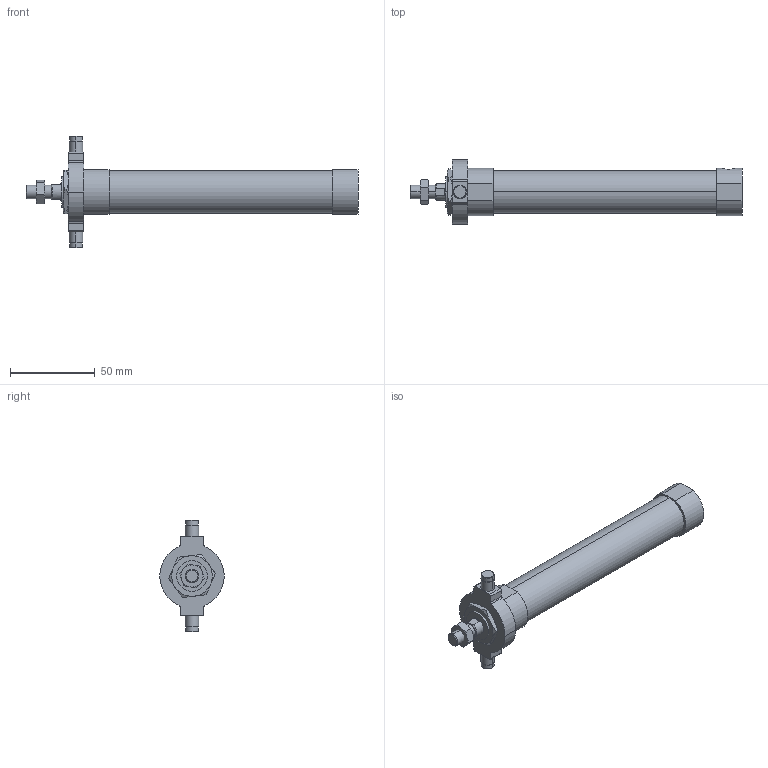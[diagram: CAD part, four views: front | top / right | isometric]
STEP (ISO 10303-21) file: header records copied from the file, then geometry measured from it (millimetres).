
FILE_DESCRIPTION (( 'STEP AP203' ), '1' );
FILE_NAME ('JGND1-20-50-T.STEP', '2016-08-04T02:15:31', ( '' ), ( '' ), 'SwSTEP 2.0', 'SolidWorks 2014', '' );
FILE_SCHEMA (( 'CONFIG_CONTROL_DESIGN' ));
Length unit declared in the file: millimetre
Products named in the file (5): J#1-20-50(P); J#2-20-T; JGND1-20-50-T
Assembly tree (4 placements, depth 2):
  JGND1-20-50-T
    J#1-20-50(P)
    (unnamed)
    (unnamed)
    J#2-20-T
Bounding box: 196 x 38 x 66 mm (x, y, z)
Volume: 97837.4 mm3; surface area: 21768.2 mm2
Topology: 4 solids, 4 shells, 120 faces, 269 edges, 166 vertices
Faces by surface type: plane 43, cylinder 41, torus 24, cone 12
Entity records: 4146 total; most frequent: CARTESIAN_POINT 952, DIRECTION 585, ORIENTED_EDGE 538, EDGE_CURVE 269, AXIS2_PLACEMENT_3D 243, VERTEX_POINT 166, EDGE_LOOP 135, ADVANCED_FACE 120
